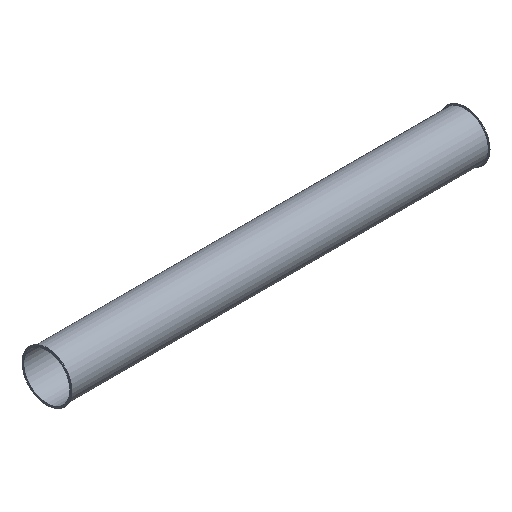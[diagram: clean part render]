
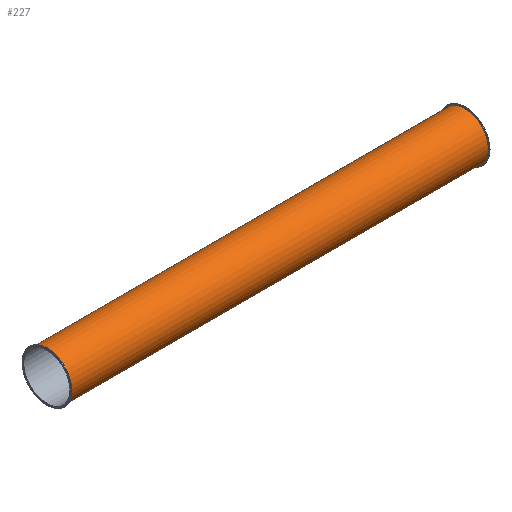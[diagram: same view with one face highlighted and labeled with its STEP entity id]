
A CAD part, isometric view. The second image highlights one B-rep face of the part: STEP entity #227.
In plain terms, the highlighted cylindrical face has radius 111.5 mm (diameter 223 mm), a full revolution.
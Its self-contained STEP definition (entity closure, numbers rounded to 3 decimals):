
#112=CARTESIAN_POINT('',(-31.741,2.915,0.0));
#113=VERTEX_POINT('',#112);
#114=CARTESIAN_POINT('',(-31.741,114.415,0.0));
#115=DIRECTION('',(-1.0,0.0,0.0));
#116=DIRECTION('',(0.0,-1.0,0.0));
#117=AXIS2_PLACEMENT_3D('',#114,#115,#116);
#118=CIRCLE('',#117,111.5);
#119=EDGE_CURVE('',#113,#113,#118,.T.);
#204=CARTESIAN_POINT('',(1950.259,2.915,0.0));
#205=VERTEX_POINT('',#204);
#206=CARTESIAN_POINT('',(1950.259,114.415,0.0));
#207=DIRECTION('',(-1.0,0.0,0.0));
#208=DIRECTION('',(0.0,-1.0,0.0));
#209=AXIS2_PLACEMENT_3D('',#206,#207,#208);
#210=CIRCLE('',#209,111.5);
#211=EDGE_CURVE('',#205,#205,#210,.T.);
#216=CARTESIAN_POINT('',(959.259,114.415,0.0));
#217=DIRECTION('',(-1.0,0.,0.0));
#218=DIRECTION('',(0.0,-1.0,0.0));
#219=AXIS2_PLACEMENT_3D('',#216,#217,#218);
#220=CYLINDRICAL_SURFACE('',#219,111.5);
#221=ORIENTED_EDGE('',*,*,#119,.F.);
#222=EDGE_LOOP('',(#221));
#223=FACE_OUTER_BOUND('',#222,.T.);
#224=ORIENTED_EDGE('',*,*,#211,.T.);
#225=EDGE_LOOP('',(#224));
#226=FACE_BOUND('',#225,.T.);
#227=ADVANCED_FACE('',(#223,#226),#220,.T.);
